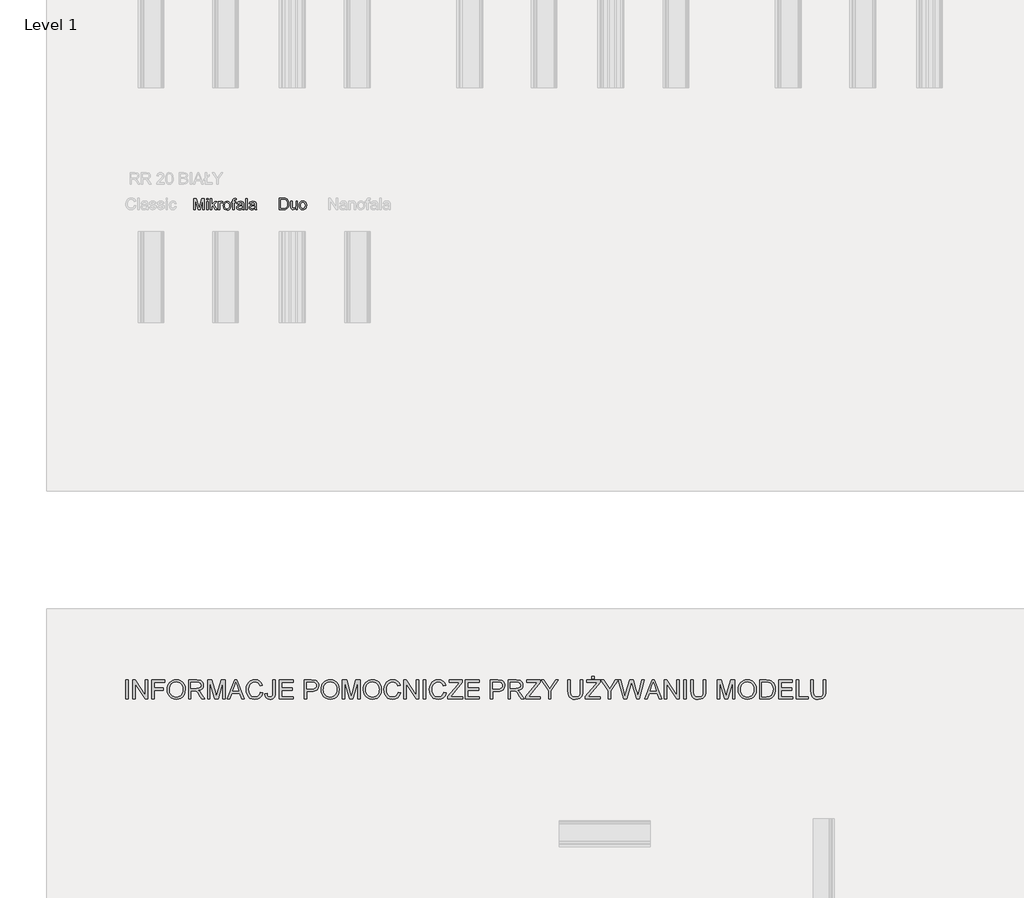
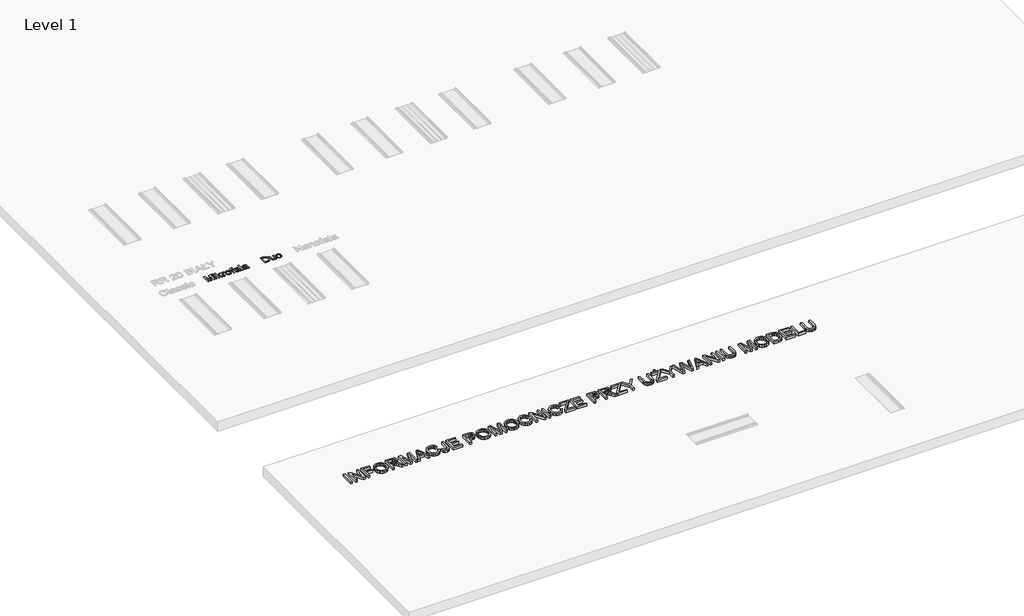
# One storey, part 10 of 24: 3 proxies.
"""IFC4 building model written with IfcOpenShell, lengths in millimetres."""

from ifc_helpers import new_model, si_unit, frame, origin, place, context, project, spatial, polyline, outline, extrude, element, save

model = new_model("IFC4")

# Units and contexts
model_context = context("Model", 3, world=origin())
ifc_project = project(units=[si_unit("LENGTHUNIT", "METRE", prefix="MILLI")], contexts=[model_context])

# Site, building, storey
site = spatial("IfcSite", under=ifc_project)
building = spatial("IfcBuilding", under=site)
storey = spatial("IfcBuildingStorey", under=building, Name="Level 1", Elevation=0.0)

# Proxies
placement = place(None, origin())
element("IfcBuildingElementProxy", 1, Name="150", ObjectType="150", at=placement, inside=storey, context=model_context, shape_type="SweptSolid", body=[
    extrude(outline(polyline([(-7895.6654959, -8175.281387), (-7895.6654959, -8024.5969218), (-7863.3654568, -8024.5969218), (-7832.4633692, -8130.8044538), (-7826.2093753, -8152.9877381), (-7819.4771347, -8128.9650438), (-7789.1636583, -8024.5969218), (-7756.7532546, -8024.5969218), (-7756.7532546, -8175.281387), (-7775.5888127, -8175.281387), (-7775.5888127, -8043.4324799), (-7813.44387, -8175.281387), (-7838.9380923, -8175.281387), (-7876.8299378, -8043.4324799), (-7876.8299378, -8175.281387), (-7895.6654959, -8175.281387)])), frame((0.0, 0.0, 600.0), z_axis=(0.0, 0.0, 1.0), x_axis=(1.0, 0.0, 0.0)), (0.0, 0.0, 1.0), 10.0),
    extrude(outline(polyline([(-7726.1454726, -8043.4324799), (-7726.1454726, -8024.5969218), (-7707.3099144, -8024.5969218), (-7707.3099144, -8043.4324799), (-7726.1454726, -8043.4324799)])), frame((0.0, 0.0, 600.0), z_axis=(0.0, 0.0, 1.0), x_axis=(1.0, 0.0, 0.0)), (0.0, 0.0, 1.0), 10.0),
    extrude(outline(polyline([(-7726.1454726, -8175.281387), (-7726.1454726, -8064.6224829), (-7707.3099144, -8064.6224829), (-7707.3099144, -8175.281387), (-7726.1454726, -8175.281387)])), frame((0.0, 0.0, 600.0), z_axis=(0.0, 0.0, 1.0), x_axis=(1.0, 0.0, 0.0)), (0.0, 0.0, 1.0), 10.0),
    extrude(outline(polyline([(-7679.0565772, -8175.281387), (-7679.0565772, -8024.5969218), (-7660.221019, -8024.5969218), (-7660.221019, -8105.5677489), (-7617.988166, -8064.6224829), (-7591.9421207, -8064.6224829), (-7634.7267968, -8106.0827837), (-7589.587676, -8175.281387), (-7611.5870193, -8175.281387), (-7648.228066, -8119.1793827), (-7660.221019, -8130.841242), (-7660.221019, -8175.281387), (-7679.0565772, -8175.281387)])), frame((0.0, 0.0, 600.0), z_axis=(0.0, 0.0, 1.0), x_axis=(1.0, 0.0, 0.0)), (0.0, 0.0, 1.0), 10.0),
    extrude(outline(polyline([(-7573.1065626, -8175.281387), (-7573.1065626, -8064.6224829), (-7556.6254492, -8064.6224829), (-7556.6254492, -8080.9932316), (-7544.9268017, -8065.9100698), (-7533.1545779, -8062.2680381), (-7514.2454433, -8068.0805736), (-7520.5362255, -8084.9663572), (-7533.7799773, -8081.1035962), (-7544.4301611, -8084.8192044), (-7551.2175839, -8095.1199003), (-7554.2710044, -8117.1192436), (-7554.2710044, -8175.281387), (-7573.1065626, -8175.281387)])), frame((0.0, 0.0, 600.0), z_axis=(0.0, 0.0, 1.0), x_axis=(1.0, 0.0, 0.0)), (0.0, 0.0, 1.0), 10.0),
    extrude(outline(polyline([(-7507.182109, -8119.9519349), (-7503.1078159, -8093.2712932), (-7490.8849367, -8074.5185085), (-7475.7833808, -8065.3306557), (-7457.7019807, -8062.2680381), (-7437.9145279, -8065.9974418), (-7422.1093977, -8077.185653), (-7411.748921, -8094.9497548), (-7408.2954287, -8118.4068306), (-7409.822139, -8137.4355268), (-7414.4022699, -8151.9208803), (-7421.902464, -8162.7688007), (-7432.1893643, -8170.8851972), (-7444.4076451, -8175.9481731), (-7457.7019807, -8177.6358318), (-7477.7285568, -8173.9202236), (-7493.5152929, -8162.7733992), (-7503.765405, -8144.6368168), (-7507.182109, -8119.9519349)]), holes=[polyline([(-7488.3465509, -8119.9151467), (-7486.1668501, -8136.9618787), (-7479.6277476, -8149.1065831), (-7469.7869042, -8156.376851), (-7457.7019807, -8158.8002736), (-7445.6722394, -8156.3630554), (-7435.8497902, -8149.0514008), (-7429.3106877, -8136.745748), (-7427.1309869, -8119.3265355), (-7429.3244833, -8102.7764443), (-7435.9049725, -8090.7972868), (-7445.7412173, -8083.5270189), (-7457.7019807, -8081.1035962), (-7469.7869042, -8083.5178218), (-7479.6277476, -8090.7604986), (-7486.1668501, -8102.8776118), (-7488.3465509, -8119.9151467)])]), frame((0.0, 0.0, 600.0), z_axis=(0.0, 0.0, 1.0), x_axis=(1.0, 0.0, 0.0)), (0.0, 0.0, 1.0), 10.0),
    extrude(outline(polyline([(-7382.3965363, -8175.281387), (-7382.3965363, -8083.458041), (-7398.8776497, -8083.458041), (-7398.8776497, -8064.6224829), (-7382.3965363, -8064.6224829), (-7382.3965363, -8053.4756584), (-7380.4099735, -8037.7670972), (-7370.7714652, -8026.5466964), (-7351.7887543, -8022.242477), (-7334.6086651, -8024.3026162), (-7337.3677801, -8041.960952), (-7348.2202989, -8041.0780352), (-7360.0844933, -8044.2050321), (-7363.5609781, -8055.8668914), (-7363.5609781, -8064.6224829), (-7342.3709752, -8064.6224829), (-7342.3709752, -8083.458041), (-7363.5609781, -8083.458041), (-7363.5609781, -8175.281387), (-7382.3965363, -8175.281387)])), frame((0.0, 0.0, 600.0), z_axis=(0.0, 0.0, 1.0), x_axis=(1.0, 0.0, 0.0)), (0.0, 0.0, 1.0), 10.0),
    extrude(outline(polyline([(-7255.2565187, -8161.1547184), (-7273.5218598, -8173.9202236), (-7293.7001872, -8177.6358318), (-7309.4409381, -8175.4009487), (-7321.0522136, -8168.6962993), (-7328.2121169, -8158.5151651), (-7330.5987514, -8145.8508274), (-7326.9935078, -8130.9516066), (-7317.5205464, -8120.1358759), (-7304.3319769, -8113.9554584), (-7288.0348045, -8111.1227671), (-7255.3668833, -8104.6480439), (-7255.2565187, -8100.4541892), (-7256.5533028, -8092.0480856), (-7260.4436549, -8086.5482498), (-7269.1440641, -8082.4647596), (-7281.2657758, -8081.1035962), (-7300.3220632, -8084.7272339), (-7309.4087484, -8097.5847096), (-7328.2443066, -8095.2302649), (-7320.0957204, -8076.8361651), (-7303.6881834, -8066.0572226), (-7278.8377546, -8062.2680381), (-7256.0106768, -8065.6157643), (-7243.1164129, -8074.0218678), (-7237.3406656, -8086.8057672), (-7236.4209606, -8103.2868806), (-7236.4209606, -8126.7209636), (-7235.4644674, -8159.4440671), (-7231.7120711, -8175.281387), (-7250.5476292, -8175.281387), (-7255.2565187, -8161.1547184)]), holes=[polyline([(-7255.2565187, -8123.4836021), (-7285.6435715, -8129.2593494), (-7301.8487734, -8132.31277), (-7309.1880192, -8137.2791769), (-7311.7631932, -8144.5264522), (-7306.1529928, -8154.7167835), (-7289.6902735, -8158.8002736), (-7270.6339861, -8154.2937192), (-7258.3467275, -8143.386018), (-7255.3668833, -8128.817891), (-7255.2565187, -8123.4836021)])]), frame((0.0, 0.0, 600.0), z_axis=(0.0, 0.0, 1.0), x_axis=(1.0, 0.0, 0.0)), (0.0, 0.0, 1.0), 10.0),
    extrude(outline(polyline([(-7210.5220681, -8175.281387), (-7210.5220681, -8024.5969218), (-7191.68651, -8024.5969218), (-7191.68651, -8175.281387), (-7210.5220681, -8175.281387)])), frame((0.0, 0.0, 600.0), z_axis=(0.0, 0.0, 1.0), x_axis=(1.0, 0.0, 0.0)), (0.0, 0.0, 1.0), 10.0),
    extrude(outline(polyline([(-7092.7998297, -8161.1547184), (-7111.0651707, -8173.9202236), (-7131.2434982, -8177.6358318), (-7146.984249, -8175.4009487), (-7158.5955245, -8168.6962993), (-7165.7554278, -8158.5151651), (-7168.1420623, -8145.8508274), (-7164.5368187, -8130.9516066), (-7155.0638574, -8120.1358759), (-7141.8752878, -8113.9554584), (-7125.5781154, -8111.1227671), (-7092.9101943, -8104.6480439), (-7092.7998297, -8100.4541892), (-7094.0966137, -8092.0480856), (-7097.9869658, -8086.5482498), (-7106.687375, -8082.4647596), (-7118.8090867, -8081.1035962), (-7137.8653741, -8084.7272339), (-7146.9520594, -8097.5847096), (-7165.7876175, -8095.2302649), (-7157.6390313, -8076.8361651), (-7141.2314943, -8066.0572226), (-7116.3810656, -8062.2680381), (-7093.5539878, -8065.6157643), (-7080.6597238, -8074.0218678), (-7074.8839765, -8086.8057672), (-7073.9642715, -8103.2868806), (-7073.9642715, -8126.7209636), (-7073.0077783, -8159.4440671), (-7069.255382, -8175.281387), (-7088.0909401, -8175.281387), (-7092.7998297, -8161.1547184)]), holes=[polyline([(-7092.7998297, -8123.4836021), (-7123.1868825, -8129.2593494), (-7139.3920844, -8132.31277), (-7146.7313302, -8137.2791769), (-7149.3065041, -8144.5264522), (-7143.6963037, -8154.7167835), (-7127.2335844, -8158.8002736), (-7108.1772971, -8154.2937192), (-7095.8900384, -8143.386018), (-7092.9101943, -8128.817891), (-7092.7998297, -8123.4836021)])]), frame((0.0, 0.0, 600.0), z_axis=(0.0, 0.0, 1.0), x_axis=(1.0, 0.0, 0.0)), (0.0, 0.0, 1.0), 10.0),
])
element("IfcBuildingElementProxy", 2, Name="150", ObjectType="150", at=placement, inside=storey, context=model_context, shape_type="SweptSolid", body=[
    extrude(outline(polyline([(-6767.5807075, -8172.1592468), (-6767.5807075, -8021.4747816), (-6715.5989816, -8021.4747816), (-6688.7068077, -8023.6452853), (-6666.5603116, -8034.4242278), (-6656.1400541, -8045.902146), (-6648.7180349, -8060.1759675), (-6644.2758598, -8076.9697805), (-6642.7951347, -8096.0076738), (-6646.8050485, -8126.4131207), (-6657.1057443, -8148.3572817), (-6670.864531, -8162.0240978), (-6688.8723546, -8169.5840728), (-6713.097384, -8172.1592468), (-6767.5807075, -8172.1592468)]), holes=[polyline([(-6748.7451493, -8153.3236886), (-6715.4150406, -8153.3236886), (-6691.1716171, -8150.6013619), (-6677.1921013, -8142.9126282), (-6665.7325771, -8124.2058287), (-6661.6306929, -8095.7133682), (-6663.6402483, -8075.1855529), (-6669.6689145, -8060.0288147), (-6678.5762573, -8049.6177542), (-6689.2218425, -8043.3269721), (-6715.9300754, -8040.3103397), (-6748.7451493, -8040.3103397), (-6748.7451493, -8153.3236886)])]), frame((0.0, 0.0, 600.0), z_axis=(0.0, 0.0, 1.0), x_axis=(1.0, 0.0, 0.0)), (0.0, 0.0, 1.0), 10.0),
    extrude(outline(polyline([(-6548.617344, -8172.1592468), (-6548.617344, -8153.1397476), (-6563.369412, -8169.1702056), (-6582.6096403, -8174.5136916), (-6600.3231584, -8170.7612952), (-6612.5368406, -8161.3435161), (-6618.1470411, -8147.4743649), (-6619.250687, -8129.9631819), (-6619.250687, -8061.5003426), (-6600.4151289, -8061.5003426), (-6600.4151289, -8121.0972259), (-6599.2746947, -8140.300666), (-6591.8250843, -8151.5762492), (-6577.7903862, -8155.6781334), (-6562.0634309, -8151.4842787), (-6551.6707645, -8140.0615427), (-6548.617344, -8119.0738749), (-6548.617344, -8061.5003426), (-6529.7817858, -8061.5003426), (-6529.7817858, -8172.1592468), (-6548.617344, -8172.1592468)])), frame((0.0, 0.0, 600.0), z_axis=(0.0, 0.0, 1.0), x_axis=(1.0, 0.0, 0.0)), (0.0, 0.0, 1.0), 10.0),
    extrude(outline(polyline([(-6508.5917829, -8116.8297947), (-6504.5174898, -8090.149153), (-6492.2946105, -8071.3963683), (-6477.1930546, -8062.2085155), (-6459.1116545, -8059.1458979), (-6439.3242017, -8062.8753016), (-6423.5190715, -8074.0635128), (-6413.1585948, -8091.8276146), (-6409.7051026, -8115.2846903), (-6411.2318129, -8134.3133865), (-6415.8119437, -8148.7987401), (-6423.3121379, -8159.6466604), (-6433.5990382, -8167.7630569), (-6445.8173189, -8172.8260329), (-6459.1116545, -8174.5136916), (-6479.1382307, -8170.7980834), (-6494.9249668, -8159.651259), (-6505.1750789, -8141.5146766), (-6508.5917829, -8116.8297947)]), holes=[polyline([(-6489.7562247, -8116.7930065), (-6487.5765239, -8133.8397385), (-6481.0374215, -8145.9844428), (-6471.1965781, -8153.2547108), (-6459.1116545, -8155.6781334), (-6447.0819133, -8153.2409152), (-6437.259464, -8145.9292605), (-6430.7203616, -8133.6236078), (-6428.5406607, -8116.2043953), (-6430.7341571, -8099.6543041), (-6437.3146463, -8087.6751466), (-6447.1508912, -8080.4048787), (-6459.1116545, -8077.981456), (-6471.1965781, -8080.3956816), (-6481.0374215, -8087.6383584), (-6487.5765239, -8099.7554716), (-6489.7562247, -8116.7930065)])]), frame((0.0, 0.0, 600.0), z_axis=(0.0, 0.0, 1.0), x_axis=(1.0, 0.0, 0.0)), (0.0, 0.0, 1.0), 10.0),
])
element("IfcBuildingElementProxy", 3, Name="250", ObjectType="250", at=placement, inside=storey, context=model_context, shape_type="SweptSolid", body=[
    extrude(outline(polyline([(-8793.2713947, -14626.8895255), (-8793.2713947, -14375.7487501), (-8761.8787978, -14375.7487501), (-8761.8787978, -14626.8895255), (-8793.2713947, -14626.8895255)])), frame((0.0, 0.0, 600.0), z_axis=(0.0, 0.0, 1.0), x_axis=(1.0, 0.0, 0.0)), (0.0, 0.0, 1.0), 50.0),
    extrude(outline(polyline([(-8699.0936039, -14626.8895255), (-8699.0936039, -14375.7487501), (-8665.493715, -14375.7487501), (-8534.2824701, -14574.7115958), (-8534.2824701, -14375.7487501), (-8502.8898732, -14375.7487501), (-8502.8898732, -14626.8895255), (-8536.4897621, -14626.8895255), (-8667.701007, -14427.8653661), (-8667.701007, -14626.8895255), (-8699.0936039, -14626.8895255)])), frame((0.0, 0.0, 600.0), z_axis=(0.0, 0.0, 1.0), x_axis=(1.0, 0.0, 0.0)), (0.0, 0.0, 1.0), 50.0),
    extrude(outline(polyline([(-8447.9528286, -14626.8895255), (-8447.9528286, -14375.7487501), (-8279.2176201, -14375.7487501), (-8279.2176201, -14407.141347), (-8416.5602316, -14407.141347), (-8416.5602316, -14481.6987647), (-8298.8379932, -14481.6987647), (-8298.8379932, -14513.0913616), (-8416.5602316, -14513.0913616), (-8416.5602316, -14626.8895255), (-8447.9528286, -14626.8895255)])), frame((0.0, 0.0, 600.0), z_axis=(0.0, 0.0, 1.0), x_axis=(1.0, 0.0, 0.0)), (0.0, 0.0, 1.0), 50.0),
    extrude(outline(polyline([(-8247.8250232, -14504.6300758), (-8245.7326943, -14475.1726914), (-8239.4557078, -14449.0952229), (-8228.9940635, -14426.3976702), (-8214.3477616, -14407.0800334), (-8196.3943538, -14391.6558143), (-8176.011392, -14380.638515), (-8153.1988762, -14374.0281354), (-8127.9568064, -14371.8246755), (-8095.0160394, -14375.9633479), (-8065.4781809, -14388.3793653), (-8040.9527146, -14408.1990078), (-8023.0491241, -14434.5485557), (-8012.1046348, -14466.1557504), (-8008.4564716, -14501.7483335), (-8012.29624, -14537.8160974), (-8023.8155449, -14569.8678162), (-8042.3782573, -14596.2633494), (-8067.3482477, -14615.3625563), (-8096.6331874, -14626.9508392), (-8128.1407474, -14630.8136001), (-8161.5873521, -14626.5446361), (-8191.2938232, -14613.7377442), (-8215.7579759, -14593.5502197), (-8233.4776254, -14567.1393581), (-8244.2381737, -14536.7507725), (-8247.8250232, -14504.6300758)]), holes=[polyline([(-8216.4324263, -14504.9366441), (-8214.8631796, -14525.7488015), (-8210.1554397, -14544.2233755), (-8202.3092065, -14560.3603659), (-8191.3244801, -14574.1597728), (-8177.9715133, -14585.2115611), (-8163.0205591, -14593.1056956), (-8146.4716175, -14597.8421763), (-8128.3246884, -14599.4210032), (-8109.8673589, -14597.8268479), (-8093.12298, -14593.0443819), (-8078.0915516, -14585.0736054), (-8064.7730737, -14573.9145182), (-8053.8688215, -14559.8238713), (-8046.0800699, -14543.0584158), (-8041.4068189, -14523.6181517), (-8039.8490686, -14501.5030788), (-8042.516213, -14473.7126597), (-8050.5176464, -14449.6930311), (-8063.6464351, -14430.0496654), (-8081.6956455, -14415.3880351), (-8103.4696611, -14406.2599631), (-8127.7728654, -14403.2172724), (-8161.5413669, -14409.0803917), (-8190.2514909, -14426.6697496), (-8201.7056501, -14440.3561095), (-8209.8871924, -14457.9627118), (-8214.7961178, -14479.4895567), (-8216.4324263, -14504.9366441)])]), frame((0.0, 0.0, 600.0), z_axis=(0.0, 0.0, 1.0), x_axis=(1.0, 0.0, 0.0)), (0.0, 0.0, 1.0), 50.0),
    extrude(outline(polyline([(-7965.2916509, -14626.8895255), (-7965.2916509, -14375.7487501), (-7857.0730306, -14375.7487501), (-7827.9873604, -14377.4425401), (-7806.8264815, -14382.5239102), (-7791.3601092, -14391.9049011), (-7779.3579592, -14406.4975535), (-7771.6554299, -14424.5927492), (-7769.0879201, -14444.4813695), (-7773.3415557, -14469.2214337), (-7786.1024624, -14489.7308549), (-7807.7538507, -14504.7680315), (-7838.6789309, -14513.0913616), (-7820.8366541, -14526.5190545), (-7795.3914828, -14558.8313564), (-7753.514249, -14626.8895255), (-7789.9958802, -14626.8895255), (-7822.6760641, -14574.8342232), (-7846.2818254, -14540.375943), (-7862.8671721, -14524.0971647), (-7877.7970497, -14518.1190822), (-7896.0072085, -14517.0154363), (-7933.899054, -14517.0154363), (-7933.899054, -14626.8895255), (-7965.2916509, -14626.8895255)]), holes=[polyline([(-7933.899054, -14485.6228393), (-7863.6335929, -14485.6228393), (-7827.7957552, -14481.1775986), (-7816.0082029, -14475.3987856), (-7807.4396181, -14466.9528281), (-7802.2202923, -14456.7364385), (-7800.480517, -14445.6463292), (-7803.7991192, -14430.3332411), (-7813.7549257, -14417.9938659), (-7830.8844311, -14409.8544767), (-7855.72413, -14407.141347), (-7933.899054, -14407.141347), (-7933.899054, -14485.6228393)])]), frame((0.0, 0.0, 600.0), z_axis=(0.0, 0.0, 1.0), x_axis=(1.0, 0.0, 0.0)), (0.0, 0.0, 1.0), 50.0),
    extrude(outline(polyline([(-7714.1508755, -14626.8895255), (-7714.1508755, -14375.7487501), (-7660.3174769, -14375.7487501), (-7608.8139976, -14552.7613035), (-7598.3906744, -14589.733444), (-7587.1702735, -14549.6956202), (-7536.6478128, -14375.7487501), (-7482.6304732, -14375.7487501), (-7482.6304732, -14626.8895255), (-7514.0230701, -14626.8895255), (-7514.0230701, -14407.141347), (-7577.1148323, -14626.8895255), (-7619.6052027, -14626.8895255), (-7682.7582786, -14407.141347), (-7682.7582786, -14626.8895255), (-7714.1508755, -14626.8895255)])), frame((0.0, 0.0, 600.0), z_axis=(0.0, 0.0, 1.0), x_axis=(1.0, 0.0, 0.0)), (0.0, 0.0, 1.0), 50.0),
    extrude(outline(polyline([(-7456.8787335, -14626.8895255), (-7356.6308899, -14375.7487501), (-7329.8981315, -14375.7487501), (-7229.7116015, -14626.8895255), (-7262.8822948, -14626.8895255), (-7291.5770904, -14548.4080332), (-7395.0745584, -14548.4080332), (-7423.769354, -14626.8895255), (-7456.8787335, -14626.8895255)]), holes=[polyline([(-7383.5475892, -14517.0154363), (-7303.0427459, -14517.0154363), (-7325.7288023, -14455.2725747), (-7343.3258244, -14407.141347), (-7358.9608092, -14449.8769721), (-7383.5475892, -14517.0154363)])]), frame((0.0, 0.0, 600.0), z_axis=(0.0, 0.0, 1.0), x_axis=(1.0, 0.0, 0.0)), (0.0, 0.0, 1.0), 50.0),
    extrude(outline(polyline([(-7019.5896686, -14537.616828), (-6988.1970717, -14545.7102319), (-7002.6824253, -14582.2914978), (-7025.4144669, -14609.0165919), (-7055.2742221, -14625.364348), (-7091.1427167, -14630.8136001), (-7127.55537, -14626.6902561), (-7156.4724277, -14614.320224), (-7178.6373179, -14594.1326995), (-7194.7934688, -14566.5568783), (-7204.6573048, -14534.1372775), (-7207.9452501, -14499.4184142), (-7204.2281091, -14462.7988272), (-7193.0766862, -14431.1763041), (-7175.073461, -14405.5548559), (-7150.8009136, -14386.9384941), (-7122.0141474, -14375.6031302), (-7090.4682663, -14371.8246755), (-7056.0483072, -14376.7144403), (-7027.591102, -14391.3837349), (-7005.985699, -14414.9281826), (-6992.1211463, -14446.4434069), (-7023.5137432, -14453.9236741), (-7034.3969189, -14431.0306841), (-7049.2654829, -14415.3267214), (-7068.3033761, -14406.2446347), (-7091.6945397, -14403.2172724), (-7118.6572242, -14406.5741956), (-7140.806786, -14416.6449652), (-7157.6143947, -14432.3719205), (-7168.5512198, -14452.6974008), (-7174.5522949, -14475.6746971), (-7176.5526532, -14499.3571005), (-7174.1844129, -14528.3584644), (-7167.0796918, -14553.4357538), (-7154.9702428, -14573.6309425), (-7137.5878186, -14587.9860045), (-7116.7488364, -14596.5622535), (-7094.2697136, -14599.4210032), (-7068.0657857, -14595.5275854), (-7046.2304564, -14583.847332), (-7029.7447445, -14564.5028705), (-7019.5896686, -14537.616828)])), frame((0.0, 0.0, 600.0), z_axis=(0.0, 0.0, 1.0), x_axis=(1.0, 0.0, 0.0)), (0.0, 0.0, 1.0), 50.0),
    extrude(outline(polyline([(-6960.7285494, -14556.3788097), (-6929.3359525, -14552.3321078), (-6926.0709998, -14575.1561199), (-6918.6060609, -14589.4268756), (-6907.2017191, -14596.9224713), (-6892.1185573, -14599.4210032), (-6880.5226102, -14598.0031247), (-6870.6281174, -14593.7494891), (-6862.994566, -14587.0509711), (-6858.1814432, -14578.2984453), (-6854.7785348, -14547.1817599), (-6854.7785348, -14375.7487501), (-6823.3859379, -14375.7487501), (-6823.3859379, -14546.6299369), (-6825.2789973, -14574.5813043), (-6830.9581756, -14595.4049581), (-6840.7530337, -14610.6184114), (-6854.9931326, -14621.7391776), (-6872.8737304, -14628.5449945), (-6893.5900853, -14630.8136001), (-6922.6067776, -14626.1307689), (-6943.9286049, -14612.0822752), (-6956.8657884, -14588.7907464), (-6960.7285494, -14556.3788097)])), frame((0.0, 0.0, 600.0), z_axis=(0.0, 0.0, 1.0), x_axis=(1.0, 0.0, 0.0)), (0.0, 0.0, 1.0), 50.0),
    extrude(outline(polyline([(-6768.4488932, -14626.8895255), (-6768.4488932, -14375.7487501), (-6587.9414609, -14375.7487501), (-6587.9414609, -14407.141347), (-6737.0562963, -14407.141347), (-6737.0562963, -14481.6987647), (-6595.7896102, -14481.6987647), (-6595.7896102, -14513.0913616), (-6737.0562963, -14513.0913616), (-6737.0562963, -14595.4969286), (-6584.0173863, -14595.4969286), (-6584.0173863, -14626.8895255), (-6768.4488932, -14626.8895255)])), frame((0.0, 0.0, 600.0), z_axis=(0.0, 0.0, 1.0), x_axis=(1.0, 0.0, 0.0)), (0.0, 0.0, 1.0), 50.0),
    extrude(outline(polyline([(-6438.8266256, -14626.8895255), (-6438.8266256, -14375.7487501), (-6345.7524808, -14375.7487501), (-6308.2285173, -14378.1399831), (-6291.4975507, -14382.6082165), (-6277.7249685, -14389.8815501), (-6266.6348592, -14400.2895449), (-6257.9513113, -14414.1617618), (-6252.3411108, -14430.5248464), (-6250.471044, -14448.4054442), (-6255.5217573, -14478.0046164), (-6270.6738969, -14502.6680384), (-6282.8082546, -14512.3785903), (-6299.0084748, -14519.3146987), (-6319.2745574, -14523.4763638), (-6343.6065025, -14524.8635855), (-6407.4340286, -14524.8635855), (-6407.4340286, -14626.8895255), (-6438.8266256, -14626.8895255)]), holes=[polyline([(-6407.4340286, -14493.4709886), (-6341.7670925, -14493.4709886), (-6313.9306882, -14490.5892463), (-6295.5365884, -14481.9440194), (-6285.2818778, -14468.0718025), (-6281.863641, -14449.5090901), (-6283.8793277, -14435.406947), (-6289.926388, -14423.5120958), (-6299.2537294, -14414.5603006), (-6311.1102596, -14409.2873253), (-6342.5028565, -14407.141347), (-6407.4340286, -14407.141347), (-6407.4340286, -14493.4709886)])]), frame((0.0, 0.0, 600.0), z_axis=(0.0, 0.0, 1.0), x_axis=(1.0, 0.0, 0.0)), (0.0, 0.0, 1.0), 50.0),
    extrude(outline(polyline([(-6219.0784471, -14504.6300758), (-6216.9861183, -14475.1726914), (-6210.7091317, -14449.0952229), (-6200.2474875, -14426.3976702), (-6185.6011855, -14407.0800334), (-6167.6477778, -14391.6558143), (-6147.264816, -14380.638515), (-6124.4523002, -14374.0281354), (-6099.2102303, -14371.8246755), (-6066.2694634, -14375.9633479), (-6036.7316048, -14388.3793653), (-6012.2061385, -14408.1990078), (-5994.3025481, -14434.5485557), (-5983.3580587, -14466.1557504), (-5979.7098956, -14501.7483335), (-5983.5496639, -14537.8160974), (-5995.0689689, -14569.8678162), (-6013.6316812, -14596.2633494), (-6038.6016716, -14615.3625563), (-6067.8866113, -14626.9508392), (-6099.3941713, -14630.8136001), (-6132.8407761, -14626.5446361), (-6162.5472472, -14613.7377442), (-6187.0113999, -14593.5502197), (-6204.7310493, -14567.1393581), (-6215.4915977, -14536.7507725), (-6219.0784471, -14504.6300758)]), holes=[polyline([(-6187.6858502, -14504.9366441), (-6186.1166035, -14525.7488015), (-6181.4088636, -14544.2233755), (-6173.5626305, -14560.3603659), (-6162.577904, -14574.1597728), (-6149.2249372, -14585.2115611), (-6134.273983, -14593.1056956), (-6117.7250414, -14597.8421763), (-6099.5781123, -14599.4210032), (-6081.1207829, -14597.8268479), (-6064.3764039, -14593.0443819), (-6049.3449755, -14585.0736054), (-6036.0264977, -14573.9145182), (-6025.1222454, -14559.8238713), (-6017.3334938, -14543.0584158), (-6012.6602428, -14523.6181517), (-6011.1024925, -14501.5030788), (-6013.769637, -14473.7126597), (-6021.7710704, -14449.6930311), (-6034.8998591, -14430.0496654), (-6052.9490695, -14415.3880351), (-6074.723085, -14406.2599631), (-6099.0262893, -14403.2172724), (-6132.7947908, -14409.0803917), (-6161.5049149, -14426.6697496), (-6172.9590741, -14440.3561095), (-6181.1406164, -14457.9627118), (-6186.0495417, -14479.4895567), (-6187.6858502, -14504.9366441)])]), frame((0.0, 0.0, 600.0), z_axis=(0.0, 0.0, 1.0), x_axis=(1.0, 0.0, 0.0)), (0.0, 0.0, 1.0), 50.0),
    extrude(outline(polyline([(-5936.5450748, -14626.8895255), (-5936.5450748, -14375.7487501), (-5882.7116762, -14375.7487501), (-5831.2081969, -14552.7613035), (-5820.7848737, -14589.733444), (-5809.5644728, -14549.6956202), (-5759.0420121, -14375.7487501), (-5705.0246725, -14375.7487501), (-5705.0246725, -14626.8895255), (-5736.4172694, -14626.8895255), (-5736.4172694, -14407.141347), (-5799.5090316, -14626.8895255), (-5841.9994021, -14626.8895255), (-5905.1524779, -14407.141347), (-5905.1524779, -14626.8895255), (-5936.5450748, -14626.8895255)])), frame((0.0, 0.0, 600.0), z_axis=(0.0, 0.0, 1.0), x_axis=(1.0, 0.0, 0.0)), (0.0, 0.0, 1.0), 50.0),
    extrude(outline(polyline([(-5661.8598517, -14504.6300758), (-5659.7675229, -14475.1726914), (-5653.4905364, -14449.0952229), (-5643.0288921, -14426.3976702), (-5628.3825902, -14407.0800334), (-5610.4291824, -14391.6558143), (-5590.0462206, -14380.638515), (-5567.2337048, -14374.0281354), (-5541.991635, -14371.8246755), (-5509.050868, -14375.9633479), (-5479.5130095, -14388.3793653), (-5454.9875431, -14408.1990078), (-5437.0839527, -14434.5485557), (-5426.1394633, -14466.1557504), (-5422.4913002, -14501.7483335), (-5426.3310685, -14537.8160974), (-5437.8503735, -14569.8678162), (-5456.4130859, -14596.2633494), (-5481.3830763, -14615.3625563), (-5510.6680159, -14626.9508392), (-5542.175576, -14630.8136001), (-5575.6221807, -14626.5446361), (-5605.3286518, -14613.7377442), (-5629.7928045, -14593.5502197), (-5647.5124539, -14567.1393581), (-5658.2730023, -14536.7507725), (-5661.8598517, -14504.6300758)]), holes=[polyline([(-5630.4672548, -14504.9366441), (-5628.8980082, -14525.7488015), (-5624.1902683, -14544.2233755), (-5616.3440351, -14560.3603659), (-5605.3593087, -14574.1597728), (-5592.0063419, -14585.2115611), (-5577.0553876, -14593.1056956), (-5560.506446, -14597.8421763), (-5542.359517, -14599.4210032), (-5523.9021875, -14597.8268479), (-5507.1578086, -14593.0443819), (-5492.1263802, -14585.0736054), (-5478.8079023, -14573.9145182), (-5467.90365, -14559.8238713), (-5460.1148984, -14543.0584158), (-5455.4416475, -14523.6181517), (-5453.8838971, -14501.5030788), (-5456.5510416, -14473.7126597), (-5464.552475, -14449.6930311), (-5477.6812637, -14430.0496654), (-5495.7304741, -14415.3880351), (-5517.5044897, -14406.2599631), (-5541.807694, -14403.2172724), (-5575.5761955, -14409.0803917), (-5604.2863195, -14426.6697496), (-5615.7404787, -14440.3561095), (-5623.922021, -14457.9627118), (-5628.8309464, -14479.4895567), (-5630.4672548, -14504.9366441)])]), frame((0.0, 0.0, 600.0), z_axis=(0.0, 0.0, 1.0), x_axis=(1.0, 0.0, 0.0)), (0.0, 0.0, 1.0), 50.0),
    extrude(outline(polyline([(-5202.7431218, -14537.616828), (-5171.3505248, -14545.7102319), (-5185.8358784, -14582.2914978), (-5208.56792, -14609.0165919), (-5238.4276753, -14625.364348), (-5274.2961698, -14630.8136001), (-5310.7088231, -14626.6902561), (-5339.6258808, -14614.320224), (-5361.790771, -14594.1326995), (-5377.946922, -14566.5568783), (-5387.810758, -14534.1372775), (-5391.0987033, -14499.4184142), (-5387.3815623, -14462.7988272), (-5376.2301393, -14431.1763041), (-5358.2269142, -14405.5548559), (-5333.9543667, -14386.9384941), (-5305.1676006, -14375.6031302), (-5273.6217195, -14371.8246755), (-5239.2017603, -14376.7144403), (-5210.7445552, -14391.3837349), (-5189.1391522, -14414.9281826), (-5175.2745995, -14446.4434069), (-5206.6671964, -14453.9236741), (-5217.5503721, -14431.0306841), (-5232.418936, -14415.3267214), (-5251.4568293, -14406.2446347), (-5274.8479928, -14403.2172724), (-5301.8106774, -14406.5741956), (-5323.9602392, -14416.6449652), (-5340.7678478, -14432.3719205), (-5351.704673, -14452.6974008), (-5357.705748, -14475.6746971), (-5359.7061064, -14499.3571005), (-5357.337866, -14528.3584644), (-5350.233145, -14553.4357538), (-5338.123696, -14573.6309425), (-5320.7412717, -14587.9860045), (-5299.9022895, -14596.5622535), (-5277.4231668, -14599.4210032), (-5251.2192388, -14595.5275854), (-5229.3839096, -14583.847332), (-5212.8981977, -14564.5028705), (-5202.7431218, -14537.616828)])), frame((0.0, 0.0, 600.0), z_axis=(0.0, 0.0, 1.0), x_axis=(1.0, 0.0, 0.0)), (0.0, 0.0, 1.0), 50.0),
    extrude(outline(polyline([(-5128.1857041, -14626.8895255), (-5128.1857041, -14375.7487501), (-5094.5858152, -14375.7487501), (-4963.3745702, -14574.7115958), (-4963.3745702, -14375.7487501), (-4931.9819733, -14375.7487501), (-4931.9819733, -14626.8895255), (-4965.5818622, -14626.8895255), (-5096.7931072, -14427.8653661), (-5096.7931072, -14626.8895255), (-5128.1857041, -14626.8895255)])), frame((0.0, 0.0, 600.0), z_axis=(0.0, 0.0, 1.0), x_axis=(1.0, 0.0, 0.0)), (0.0, 0.0, 1.0), 50.0),
    extrude(outline(polyline([(-4873.1208541, -14626.8895255), (-4873.1208541, -14375.7487501), (-4841.7282572, -14375.7487501), (-4841.7282572, -14626.8895255), (-4873.1208541, -14626.8895255)])), frame((0.0, 0.0, 600.0), z_axis=(0.0, 0.0, 1.0), x_axis=(1.0, 0.0, 0.0)), (0.0, 0.0, 1.0), 50.0),
    extrude(outline(polyline([(-4602.3597056, -14537.616828), (-4570.9671087, -14545.7102319), (-4585.4524623, -14582.2914978), (-4608.1845039, -14609.0165919), (-4638.0442592, -14625.364348), (-4673.9127537, -14630.8136001), (-4710.325407, -14626.6902561), (-4739.2424647, -14614.320224), (-4761.4073549, -14594.1326995), (-4777.5635058, -14566.5568783), (-4787.4273418, -14534.1372775), (-4790.7152872, -14499.4184142), (-4786.9981462, -14462.7988272), (-4775.8467232, -14431.1763041), (-4757.8434981, -14405.5548559), (-4733.5709506, -14386.9384941), (-4704.7841845, -14375.6031302), (-4673.2383034, -14371.8246755), (-4638.8183442, -14376.7144403), (-4610.361139, -14391.3837349), (-4588.755736, -14414.9281826), (-4574.8911833, -14446.4434069), (-4606.2837803, -14453.9236741), (-4617.1669559, -14431.0306841), (-4632.0355199, -14415.3267214), (-4651.0734132, -14406.2446347), (-4674.4645767, -14403.2172724), (-4701.4272613, -14406.5741956), (-4723.576823, -14416.6449652), (-4740.3844317, -14432.3719205), (-4751.3212569, -14452.6974008), (-4757.3223319, -14475.6746971), (-4759.3226902, -14499.3571005), (-4756.9544499, -14528.3584644), (-4749.8497289, -14553.4357538), (-4737.7402799, -14573.6309425), (-4720.3578556, -14587.9860045), (-4699.5188734, -14596.5622535), (-4677.0397507, -14599.4210032), (-4650.8358227, -14595.5275854), (-4629.0004935, -14583.847332), (-4612.5147815, -14564.5028705), (-4602.3597056, -14537.616828)])), frame((0.0, 0.0, 600.0), z_axis=(0.0, 0.0, 1.0), x_axis=(1.0, 0.0, 0.0)), (0.0, 0.0, 1.0), 50.0),
    extrude(outline(polyline([(-4547.422661, -14626.8895255), (-4547.422661, -14594.3319689), (-4419.0318447, -14437.0011023), (-4394.6290057, -14407.141347), (-4531.7263626, -14407.141347), (-4531.7263626, -14375.7487501), (-4355.1430049, -14375.7487501), (-4355.1430049, -14407.141347), (-4495.673927, -14579.3101208), (-4508.9176789, -14595.4969286), (-4351.2189303, -14595.4969286), (-4351.2189303, -14626.8895255), (-4547.422661, -14626.8895255)])), frame((0.0, 0.0, 600.0), z_axis=(0.0, 0.0, 1.0), x_axis=(1.0, 0.0, 0.0)), (0.0, 0.0, 1.0), 50.0),
    extrude(outline(polyline([(-4315.9022587, -14626.8895255), (-4315.9022587, -14375.7487501), (-4135.3948264, -14375.7487501), (-4135.3948264, -14407.141347), (-4284.5096618, -14407.141347), (-4284.5096618, -14481.6987647), (-4143.2429757, -14481.6987647), (-4143.2429757, -14513.0913616), (-4284.5096618, -14513.0913616), (-4284.5096618, -14595.4969286), (-4131.4707518, -14595.4969286), (-4131.4707518, -14626.8895255), (-4315.9022587, -14626.8895255)])), frame((0.0, 0.0, 600.0), z_axis=(0.0, 0.0, 1.0), x_axis=(1.0, 0.0, 0.0)), (0.0, 0.0, 1.0), 50.0),
    extrude(outline(polyline([(-3986.279991, -14626.8895255), (-3986.279991, -14375.7487501), (-3893.2058463, -14375.7487501), (-3855.6818828, -14378.1399831), (-3838.9509162, -14382.6082165), (-3825.178334, -14389.8815501), (-3814.0882247, -14400.2895449), (-3805.4046768, -14414.1617618), (-3799.7944763, -14430.5248464), (-3797.9244095, -14448.4054442), (-3802.9751227, -14478.0046164), (-3818.1272624, -14502.6680384), (-3830.2616201, -14512.3785903), (-3846.4618403, -14519.3146987), (-3866.7279229, -14523.4763638), (-3891.059868, -14524.8635855), (-3954.8873941, -14524.8635855), (-3954.8873941, -14626.8895255), (-3986.279991, -14626.8895255)]), holes=[polyline([(-3954.8873941, -14493.4709886), (-3889.220458, -14493.4709886), (-3861.3840537, -14490.5892463), (-3842.9899539, -14481.9440194), (-3832.7352433, -14468.0718025), (-3829.3170064, -14449.5090901), (-3831.3326932, -14435.406947), (-3837.3797535, -14423.5120958), (-3846.7070949, -14414.5603006), (-3858.5636251, -14409.2873253), (-3889.956222, -14407.141347), (-3954.8873941, -14407.141347), (-3954.8873941, -14493.4709886)])]), frame((0.0, 0.0, 600.0), z_axis=(0.0, 0.0, 1.0), x_axis=(1.0, 0.0, 0.0)), (0.0, 0.0, 1.0), 50.0),
    extrude(outline(polyline([(-3754.7595887, -14626.8895255), (-3754.7595887, -14375.7487501), (-3646.5409685, -14375.7487501), (-3617.4552983, -14377.4425401), (-3596.2944193, -14382.5239102), (-3580.8280471, -14391.9049011), (-3568.825897, -14406.4975535), (-3561.1233677, -14424.5927492), (-3558.555858, -14444.4813695), (-3562.8094936, -14469.2214337), (-3575.5704003, -14489.7308549), (-3597.2217885, -14504.7680315), (-3628.1468687, -14513.0913616), (-3610.304592, -14526.5190545), (-3584.8594206, -14558.8313564), (-3542.9821869, -14626.8895255), (-3579.463818, -14626.8895255), (-3612.144002, -14574.8342232), (-3635.7497633, -14540.375943), (-3652.3351099, -14524.0971647), (-3667.2649876, -14518.1190822), (-3685.4751463, -14517.0154363), (-3723.3669918, -14517.0154363), (-3723.3669918, -14626.8895255), (-3754.7595887, -14626.8895255)]), holes=[polyline([(-3723.3669918, -14485.6228393), (-3653.1015307, -14485.6228393), (-3617.2636931, -14481.1775986), (-3605.4761408, -14475.3987856), (-3596.907556, -14466.9528281), (-3591.6882302, -14456.7364385), (-3589.9484549, -14445.6463292), (-3593.2670571, -14430.3332411), (-3603.2228636, -14417.9938659), (-3620.352369, -14409.8544767), (-3645.1920679, -14407.141347), (-3723.3669918, -14407.141347), (-3723.3669918, -14485.6228393)])]), frame((0.0, 0.0, 600.0), z_axis=(0.0, 0.0, 1.0), x_axis=(1.0, 0.0, 0.0)), (0.0, 0.0, 1.0), 50.0),
    extrude(outline(polyline([(-3523.2391865, -14626.8895255), (-3523.2391865, -14594.3319689), (-3394.8483701, -14437.0011023), (-3370.4455311, -14407.141347), (-3507.542888, -14407.141347), (-3507.542888, -14375.7487501), (-3330.9595303, -14375.7487501), (-3330.9595303, -14407.141347), (-3471.4904525, -14579.3101208), (-3484.7342043, -14595.4969286), (-3327.0354557, -14595.4969286), (-3327.0354557, -14626.8895255), (-3523.2391865, -14626.8895255)])), frame((0.0, 0.0, 600.0), z_axis=(0.0, 0.0, 1.0), x_axis=(1.0, 0.0, 0.0)), (0.0, 0.0, 1.0), 50.0),
    extrude(outline(polyline([(-3221.0854411, -14626.8895255), (-3221.0854411, -14520.5103152), (-3319.1873065, -14375.7487501), (-3282.2151659, -14375.7487501), (-3229.8532953, -14453.0652828), (-3203.0592233, -14492.5512836), (-3176.142524, -14450.2448541), (-3128.624433, -14375.7487501), (-3091.5909788, -14375.7487501), (-3189.6928442, -14520.5103152), (-3189.6928442, -14626.8895255), (-3221.0854411, -14626.8895255)])), frame((0.0, 0.0, 600.0), z_axis=(0.0, 0.0, 1.0), x_axis=(1.0, 0.0, 0.0)), (0.0, 0.0, 1.0), 50.0),
    extrude(outline(polyline([(-2801.2094573, -14375.7487501), (-2769.8168603, -14375.7487501), (-2769.8168603, -14520.6329425), (-2771.9475102, -14554.5623924), (-2778.3394599, -14580.6896783), (-2790.2802963, -14600.8465459), (-2809.0576065, -14616.8647411), (-2834.7173756, -14627.3263854), (-2867.3055891, -14630.8136001), (-2899.1810311, -14627.7785736), (-2924.6645235, -14618.6734943), (-2943.7637304, -14603.8125945), (-2956.486316, -14583.5101069), (-2963.6370223, -14556.279175), (-2966.0205911, -14520.6329425), (-2966.0205911, -14375.7487501), (-2934.6279942, -14375.7487501), (-2934.6279942, -14519.5292966), (-2933.0798241, -14547.7412471), (-2928.4353139, -14567.3846128), (-2920.0200133, -14580.9885824), (-2907.1594719, -14591.0823446), (-2890.3901842, -14597.3363385), (-2870.248645, -14599.4210032), (-2838.3195535, -14595.2976591), (-2817.0896967, -14582.9276271), (-2810.1420919, -14572.7802154), (-2805.1795171, -14558.8313564), (-2801.2094573, -14519.5292966), (-2801.2094573, -14375.7487501)])), frame((0.0, 0.0, 600.0), z_axis=(0.0, 0.0, 1.0), x_axis=(1.0, 0.0, 0.0)), (0.0, 0.0, 1.0), 50.0),
    extrude(outline(polyline([(-2734.5001888, -14626.8895255), (-2734.5001888, -14594.3319689), (-2606.1093725, -14437.0011023), (-2581.7065335, -14407.141347), (-2718.8038903, -14407.141347), (-2718.8038903, -14375.7487501), (-2542.2205326, -14375.7487501), (-2542.2205326, -14407.141347), (-2682.7514548, -14579.3101208), (-2695.9952066, -14595.4969286), (-2538.296458, -14595.4969286), (-2538.296458, -14626.8895255), (-2734.5001888, -14626.8895255)])), frame((0.0, 0.0, 600.0), z_axis=(0.0, 0.0, 1.0), x_axis=(1.0, 0.0, 0.0)), (0.0, 0.0, 1.0), 50.0),
    extrude(outline(polyline([(-2648.1705473, -14360.0524516), (-2648.1705473, -14328.6598547), (-2616.7779503, -14328.6598547), (-2616.7779503, -14360.0524516), (-2648.1705473, -14360.0524516)])), frame((0.0, 0.0, 600.0), z_axis=(0.0, 0.0, 1.0), x_axis=(1.0, 0.0, 0.0)), (0.0, 0.0, 1.0), 50.0),
    extrude(outline(polyline([(-2432.3464434, -14626.8895255), (-2432.3464434, -14520.5103152), (-2530.4483088, -14375.7487501), (-2493.4761683, -14375.7487501), (-2441.1142976, -14453.0652828), (-2414.3202257, -14492.5512836), (-2387.4035263, -14450.2448541), (-2339.8854353, -14375.7487501), (-2302.8519811, -14375.7487501), (-2400.9538465, -14520.5103152), (-2400.9538465, -14626.8895255), (-2432.3464434, -14626.8895255)])), frame((0.0, 0.0, 600.0), z_axis=(0.0, 0.0, 1.0), x_axis=(1.0, 0.0, 0.0)), (0.0, 0.0, 1.0), 50.0),
    extrude(outline(polyline([(-2230.4405417, -14626.8895255), (-2298.9279065, -14375.7487501), (-2266.5542909, -14375.7487501), (-2226.8230354, -14540.8051386), (-2214.5603023, -14591.7567949), (-2201.4391778, -14546.6912505), (-2151.6524811, -14375.7487501), (-2104.9927814, -14375.7487501), (-2068.8177185, -14499.6636688), (-2053.3206895, -14545.6489182), (-2041.9010192, -14591.7567949), (-2030.006168, -14542.2766666), (-1989.9683442, -14375.7487501), (-1957.533415, -14375.7487501), (-2025.9594661, -14626.8895255), (-2059.559355, -14626.8895255), (-2119.8306885, -14433.1383414), (-2128.2306607, -14406.0990147), (-2137.6729653, -14438.6565713), (-2192.5486962, -14626.8895255), (-2230.4405417, -14626.8895255)])), frame((0.0, 0.0, 600.0), z_axis=(0.0, 0.0, 1.0), x_axis=(1.0, 0.0, 0.0)), (0.0, 0.0, 1.0), 50.0),
    extrude(outline(polyline([(-1955.326123, -14626.8895255), (-1855.0782793, -14375.7487501), (-1828.345521, -14375.7487501), (-1728.158991, -14626.8895255), (-1761.3296842, -14626.8895255), (-1790.0244798, -14548.4080332), (-1893.5219478, -14548.4080332), (-1922.2167434, -14626.8895255), (-1955.326123, -14626.8895255)]), holes=[polyline([(-1881.9949786, -14517.0154363), (-1801.4901354, -14517.0154363), (-1824.1761917, -14455.2725747), (-1841.7732138, -14407.141347), (-1857.4081986, -14449.8769721), (-1881.9949786, -14517.0154363)])]), frame((0.0, 0.0, 600.0), z_axis=(0.0, 0.0, 1.0), x_axis=(1.0, 0.0, 0.0)), (0.0, 0.0, 1.0), 50.0),
    extrude(outline(polyline([(-1694.6204158, -14626.8895255), (-1694.6204158, -14375.7487501), (-1661.0205269, -14375.7487501), (-1529.8092819, -14574.7115958), (-1529.8092819, -14375.7487501), (-1498.416685, -14375.7487501), (-1498.416685, -14626.8895255), (-1532.0165739, -14626.8895255), (-1663.2278188, -14427.8653661), (-1663.2278188, -14626.8895255), (-1694.6204158, -14626.8895255)])), frame((0.0, 0.0, 600.0), z_axis=(0.0, 0.0, 1.0), x_axis=(1.0, 0.0, 0.0)), (0.0, 0.0, 1.0), 50.0),
    extrude(outline(polyline([(-1439.5555658, -14626.8895255), (-1439.5555658, -14375.7487501), (-1408.1629688, -14375.7487501), (-1408.1629688, -14626.8895255), (-1439.5555658, -14626.8895255)])), frame((0.0, 0.0, 600.0), z_axis=(0.0, 0.0, 1.0), x_axis=(1.0, 0.0, 0.0)), (0.0, 0.0, 1.0), 50.0),
    extrude(outline(polyline([(-1180.5666412, -14375.7487501), (-1149.1740442, -14375.7487501), (-1149.1740442, -14520.6329425), (-1151.3046941, -14554.5623924), (-1157.6966438, -14580.6896783), (-1169.6374802, -14600.8465459), (-1188.4147904, -14616.8647411), (-1214.0745596, -14627.3263854), (-1246.662773, -14630.8136001), (-1278.538215, -14627.7785736), (-1304.0217074, -14618.6734943), (-1323.1209143, -14603.8125945), (-1335.8435, -14583.5101069), (-1342.9942062, -14556.279175), (-1345.377775, -14520.6329425), (-1345.377775, -14375.7487501), (-1313.9851781, -14375.7487501), (-1313.9851781, -14519.5292966), (-1312.437008, -14547.7412471), (-1307.7924978, -14567.3846128), (-1299.3771972, -14580.9885824), (-1286.5166558, -14591.0823446), (-1269.7473682, -14597.3363385), (-1249.6058289, -14599.4210032), (-1217.6767374, -14595.2976591), (-1196.4468806, -14582.9276271), (-1189.4992759, -14572.7802154), (-1184.536701, -14558.8313564), (-1180.5666412, -14519.5292966), (-1180.5666412, -14375.7487501)])), frame((0.0, 0.0, 600.0), z_axis=(0.0, 0.0, 1.0), x_axis=(1.0, 0.0, 0.0)), (0.0, 0.0, 1.0), 50.0),
    extrude(outline(polyline([(-996.1351343, -14626.8895255), (-996.1351343, -14375.7487501), (-942.3017356, -14375.7487501), (-890.7982563, -14552.7613035), (-880.3749331, -14589.733444), (-869.1545322, -14549.6956202), (-818.6320716, -14375.7487501), (-764.614732, -14375.7487501), (-764.614732, -14626.8895255), (-796.0073289, -14626.8895255), (-796.0073289, -14407.141347), (-859.099091, -14626.8895255), (-901.5894615, -14626.8895255), (-964.7425373, -14407.141347), (-964.7425373, -14626.8895255), (-996.1351343, -14626.8895255)])), frame((0.0, 0.0, 600.0), z_axis=(0.0, 0.0, 1.0), x_axis=(1.0, 0.0, 0.0)), (0.0, 0.0, 1.0), 50.0),
    extrude(outline(polyline([(-721.4499112, -14504.6300758), (-719.3575823, -14475.1726914), (-713.0805958, -14449.0952229), (-702.6189516, -14426.3976702), (-687.9726496, -14407.0800334), (-670.0192418, -14391.6558143), (-649.63628, -14380.638515), (-626.8237642, -14374.0281354), (-601.5816944, -14371.8246755), (-568.6409274, -14375.9633479), (-539.1030689, -14388.3793653), (-514.5776026, -14408.1990078), (-496.6740121, -14434.5485557), (-485.7295228, -14466.1557504), (-482.0813597, -14501.7483335), (-485.921128, -14537.8160974), (-497.440433, -14569.8678162), (-516.0031453, -14596.2633494), (-540.9731357, -14615.3625563), (-570.2580754, -14626.9508392), (-601.7656354, -14630.8136001), (-635.2122401, -14626.5446361), (-664.9187113, -14613.7377442), (-689.3828639, -14593.5502197), (-707.1025134, -14567.1393581), (-717.8630617, -14536.7507725), (-721.4499112, -14504.6300758)]), holes=[polyline([(-690.0573143, -14504.9366441), (-688.4880676, -14525.7488015), (-683.7803277, -14544.2233755), (-675.9340945, -14560.3603659), (-664.9493681, -14574.1597728), (-651.5964013, -14585.2115611), (-636.6454471, -14593.1056956), (-620.0965055, -14597.8421763), (-601.9495764, -14599.4210032), (-583.4922469, -14597.8268479), (-566.747868, -14593.0443819), (-551.7164396, -14585.0736054), (-538.3979618, -14573.9145182), (-527.4937095, -14559.8238713), (-519.7049579, -14543.0584158), (-515.0317069, -14523.6181517), (-513.4739566, -14501.5030788), (-516.141101, -14473.7126597), (-524.1425344, -14449.6930311), (-537.2713231, -14430.0496654), (-555.3205335, -14415.3880351), (-577.0945491, -14406.2599631), (-601.3977534, -14403.2172724), (-635.1662549, -14409.0803917), (-663.8763789, -14426.6697496), (-675.3305381, -14440.3561095), (-683.5120804, -14457.9627118), (-688.4210058, -14479.4895567), (-690.0573143, -14504.9366441)])]), frame((0.0, 0.0, 600.0), z_axis=(0.0, 0.0, 1.0), x_axis=(1.0, 0.0, 0.0)), (0.0, 0.0, 1.0), 50.0),
    extrude(outline(polyline([(-438.9165389, -14626.8895255), (-438.9165389, -14375.7487501), (-352.280329, -14375.7487501), (-307.4600393, -14379.3662564), (-287.4411274, -14386.3406859), (-270.5492124, -14397.3311605), (-253.1821166, -14416.4610242), (-240.8120845, -14440.2507266), (-233.4084593, -14468.2404151), (-230.9405843, -14499.9702371), (-232.6113817, -14526.9252575), (-237.6237739, -14550.645982), (-245.2573253, -14570.8411707), (-254.7916003, -14587.2195837), (-277.7229113, -14609.9976105), (-307.7359508, -14622.5975689), (-348.1109997, -14626.8895255), (-438.9165389, -14626.8895255)]), holes=[polyline([(-407.523942, -14595.4969286), (-351.9737607, -14595.4969286), (-311.5680549, -14590.9597173), (-288.2688619, -14578.1451611), (-277.3626935, -14564.5565199), (-269.1696549, -14546.967162), (-264.0422996, -14525.3004454), (-262.3331812, -14499.4797278), (-265.6824402, -14465.2667023), (-275.7302172, -14440.0054719), (-290.5757885, -14422.6537045), (-308.3184306, -14412.1690676), (-326.3753052, -14408.3982772), (-352.832152, -14407.141347), (-407.523942, -14407.141347), (-407.523942, -14595.4969286)])]), frame((0.0, 0.0, 600.0), z_axis=(0.0, 0.0, 1.0), x_axis=(1.0, 0.0, 0.0)), (0.0, 0.0, 1.0), 50.0),
    extrude(outline(polyline([(-187.7757635, -14626.8895255), (-187.7757635, -14375.7487501), (-7.2683312, -14375.7487501), (-7.2683312, -14407.141347), (-156.3831666, -14407.141347), (-156.3831666, -14481.6987647), (-15.1164804, -14481.6987647), (-15.1164804, -14513.0913616), (-156.3831666, -14513.0913616), (-156.3831666, -14595.4969286), (-3.3442566, -14595.4969286), (-3.3442566, -14626.8895255), (-187.7757635, -14626.8895255)])), frame((0.0, 0.0, 600.0), z_axis=(0.0, 0.0, 1.0), x_axis=(1.0, 0.0, 0.0)), (0.0, 0.0, 1.0), 50.0),
    extrude(outline(polyline([(43.7446388, -14626.8895255), (43.7446388, -14375.7487501), (75.1372357, -14375.7487501), (75.1372357, -14595.4969286), (200.7076234, -14595.4969286), (200.7076234, -14626.8895255), (43.7446388, -14626.8895255)])), frame((0.0, 0.0, 600.0), z_axis=(0.0, 0.0, 1.0), x_axis=(1.0, 0.0, 0.0)), (0.0, 0.0, 1.0), 50.0),
    extrude(outline(polyline([(400.8354288, -14375.7487501), (432.2280257, -14375.7487501), (432.2280257, -14520.6329425), (430.0973758, -14554.5623924), (423.7054261, -14580.6896783), (411.7645897, -14600.8465459), (392.9872795, -14616.8647411), (367.3275104, -14627.3263854), (334.739297, -14630.8136001), (302.8638549, -14627.7785736), (277.3803626, -14618.6734943), (258.2811556, -14603.8125945), (245.55857, -14583.5101069), (238.4078637, -14556.279175), (236.0242949, -14520.6329425), (236.0242949, -14375.7487501), (267.4168919, -14375.7487501), (267.4168919, -14519.5292966), (268.9650619, -14547.7412471), (273.6095721, -14567.3846128), (282.0248727, -14580.9885824), (294.8854142, -14591.0823446), (311.6547018, -14597.3363385), (331.796241, -14599.4210032), (363.7253325, -14595.2976591), (384.9551893, -14582.9276271), (391.9027941, -14572.7802154), (396.8653689, -14558.8313564), (400.8354288, -14519.5292966), (400.8354288, -14375.7487501)])), frame((0.0, 0.0, 600.0), z_axis=(0.0, 0.0, 1.0), x_axis=(1.0, 0.0, 0.0)), (0.0, 0.0, 1.0), 50.0),
])

save(model, "model.ifc")
